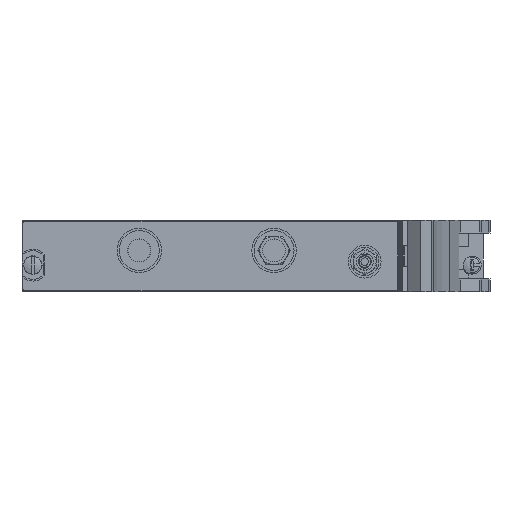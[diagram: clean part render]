
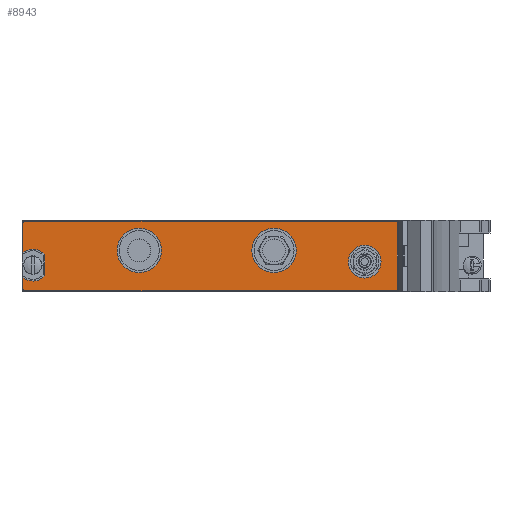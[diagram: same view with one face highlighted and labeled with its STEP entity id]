
A CAD part, left-side view. The second image highlights one B-rep face of the part: STEP entity #8943.
In plain terms, the highlighted planar face has unit normal (-1, 0, 0).
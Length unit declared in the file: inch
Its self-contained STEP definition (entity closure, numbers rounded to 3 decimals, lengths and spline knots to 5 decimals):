
#2854=CARTESIAN_POINT('',(-0.215,0.53231,0.665));
#2855=DIRECTION('',(-1.,0.,0.));
#2856=DIRECTION('',(0.,0.,1.));
#2857=AXIS2_PLACEMENT_3D('',#2854,#2855,#2856);
#2859=DIRECTION('',(0.,1.,0.));
#2860=VECTOR('',#2859,4.07);
#2861=CARTESIAN_POINT('',(-0.215,-3.53769,0.685));
#2862=LINE('',#2861,#2860);
#2863=CARTESIAN_POINT('',(-0.215,-3.53769,0.665));
#2864=DIRECTION('',(-1.,0.,0.));
#2865=DIRECTION('',(0.,-1.,0.));
#2866=AXIS2_PLACEMENT_3D('',#2863,#2864,#2865);
#2868=DIRECTION('',(0.,0.,1.));
#2869=VECTOR('',#2868,0.728);
#2870=CARTESIAN_POINT('',(-0.215,-3.55769,-0.063));
#2871=LINE('',#2870,#2869);
#2872=CARTESIAN_POINT('',(-0.215,-3.53769,-0.063));
#2873=DIRECTION('',(-1.,0.,0.));
#2874=DIRECTION('',(0.,0.,-1.));
#2875=AXIS2_PLACEMENT_3D('',#2872,#2873,#2874);
#2877=DIRECTION('',(0.,-1.,0.));
#2878=VECTOR('',#2877,4.07);
#2879=CARTESIAN_POINT('',(-0.215,0.53231,-0.083));
#2880=LINE('',#2879,#2878);
#2881=CARTESIAN_POINT('',(-0.215,0.53231,-0.063));
#2882=DIRECTION('',(-1.,0.,0.));
#2883=DIRECTION('',(0.,1.,0.));
#2884=AXIS2_PLACEMENT_3D('',#2881,#2882,#2883);
#2886=DIRECTION('',(0.,0.,-1.));
#2887=VECTOR('',#2886,0.1263);
#2888=CARTESIAN_POINT('',(-0.215,0.55231,0.0633));
#2889=LINE('',#2888,#2887);
#2890=CARTESIAN_POINT('',(-0.215,0.44431,0.201));
#2891=DIRECTION('',(1.,0.,0.));
#2892=DIRECTION('',(0.,-0.76,-0.65));
#2893=AXIS2_PLACEMENT_3D('',#2890,#2891,#2892);
#2895=DIRECTION('',(0.,0.,-1.));
#2896=VECTOR('',#2895,0.22747);
#2897=CARTESIAN_POINT('',(-0.215,0.31131,0.31474));
#2898=LINE('',#2897,#2896);
#2899=CARTESIAN_POINT('',(-0.215,0.44431,0.201));
#2900=DIRECTION('',(1.,0.,0.));
#2901=DIRECTION('',(0.,0.617,0.787));
#2902=AXIS2_PLACEMENT_3D('',#2899,#2900,#2901);
#2904=DIRECTION('',(0.,0.,-1.));
#2905=VECTOR('',#2904,0.3263);
#2906=CARTESIAN_POINT('',(-0.215,0.55231,0.665));
#2907=LINE('',#2906,#2905);
#2908=CARTESIAN_POINT('',(-0.215,-0.7245,0.362));
#2909=DIRECTION('',(1.,0.,0.));
#2910=DIRECTION('',(0.,0.,-1.));
#2911=AXIS2_PLACEMENT_3D('',#2908,#2909,#2910);
#2913=CARTESIAN_POINT('',(-0.215,-0.7245,0.362));
#2914=DIRECTION('',(1.,0.,0.));
#2915=DIRECTION('',(0.,0.,1.));
#2916=AXIS2_PLACEMENT_3D('',#2913,#2914,#2915);
#2918=CARTESIAN_POINT('',(-0.215,-2.2045,0.362));
#2919=DIRECTION('',(1.,0.,0.));
#2920=DIRECTION('',(0.,0.,-1.));
#2921=AXIS2_PLACEMENT_3D('',#2918,#2919,#2920);
#2923=CARTESIAN_POINT('',(-0.215,-2.2045,0.362));
#2924=DIRECTION('',(1.,0.,0.));
#2925=DIRECTION('',(0.,0.,1.));
#2926=AXIS2_PLACEMENT_3D('',#2923,#2924,#2925);
#2928=CARTESIAN_POINT('',(-0.215,-3.2,0.239));
#2929=DIRECTION('',(1.,0.,0.));
#2930=DIRECTION('',(0.,0.,-1.));
#2931=AXIS2_PLACEMENT_3D('',#2928,#2929,#2930);
#2933=CARTESIAN_POINT('',(-0.215,-3.2,0.239));
#2934=DIRECTION('',(1.,0.,0.));
#2935=DIRECTION('',(0.,0.,1.));
#2936=AXIS2_PLACEMENT_3D('',#2933,#2934,#2935);
#4760=CARTESIAN_POINT('',(-0.215,0.53231,0.685));
#4761=CARTESIAN_POINT('',(-0.215,0.55231,0.665));
#4762=VERTEX_POINT('',#4760);
#4763=VERTEX_POINT('',#4761);
#4764=CARTESIAN_POINT('',(-0.215,0.55231,0.3387));
#4765=VERTEX_POINT('',#4764);
#4766=CARTESIAN_POINT('',(-0.215,0.31131,0.31474));
#4767=VERTEX_POINT('',#4766);
#4768=CARTESIAN_POINT('',(-0.215,0.31131,0.08726));
#4769=VERTEX_POINT('',#4768);
#4770=CARTESIAN_POINT('',(-0.215,0.55231,0.0633));
#4771=VERTEX_POINT('',#4770);
#4772=CARTESIAN_POINT('',(-0.215,0.55231,-0.063));
#4773=VERTEX_POINT('',#4772);
#4774=CARTESIAN_POINT('',(-0.215,0.53231,-0.083));
#4775=VERTEX_POINT('',#4774);
#4776=CARTESIAN_POINT('',(-0.215,-3.53769,-0.083));
#4777=VERTEX_POINT('',#4776);
#4778=CARTESIAN_POINT('',(-0.215,-3.55769,-0.063));
#4779=VERTEX_POINT('',#4778);
#4780=CARTESIAN_POINT('',(-0.215,-3.55769,0.665));
#4781=VERTEX_POINT('',#4780);
#4782=CARTESIAN_POINT('',(-0.215,-3.53769,0.685));
#4783=VERTEX_POINT('',#4782);
#4784=CARTESIAN_POINT('',(-0.215,-0.7245,0.118));
#4785=CARTESIAN_POINT('',(-0.215,-0.7245,0.606));
#4786=VERTEX_POINT('',#4784);
#4787=VERTEX_POINT('',#4785);
#4788=CARTESIAN_POINT('',(-0.215,-3.2,0.059));
#4789=CARTESIAN_POINT('',(-0.215,-3.2,0.419));
#4790=VERTEX_POINT('',#4788);
#4791=VERTEX_POINT('',#4789);
#4792=CARTESIAN_POINT('',(-0.215,-2.2045,0.118));
#4793=CARTESIAN_POINT('',(-0.215,-2.2045,0.606));
#4794=VERTEX_POINT('',#4792);
#4795=VERTEX_POINT('',#4793);
#8896=CARTESIAN_POINT('',(-0.215,0.44431,0.201));
#8897=DIRECTION('',(-1.,0.,0.));
#8898=DIRECTION('',(0.,0.,1.));
#8899=AXIS2_PLACEMENT_3D('',#8896,#8897,#8898);
#8900=PLANE('',#8899);
#8902=ORIENTED_EDGE('',*,*,#8901,.F.);
#8904=ORIENTED_EDGE('',*,*,#8903,.F.);
#8906=ORIENTED_EDGE('',*,*,#8905,.F.);
#8908=ORIENTED_EDGE('',*,*,#8907,.F.);
#8910=ORIENTED_EDGE('',*,*,#8909,.F.);
#8912=ORIENTED_EDGE('',*,*,#8911,.F.);
#8914=ORIENTED_EDGE('',*,*,#8913,.F.);
#8916=ORIENTED_EDGE('',*,*,#8915,.F.);
#8918=ORIENTED_EDGE('',*,*,#8917,.F.);
#8920=ORIENTED_EDGE('',*,*,#8919,.F.);
#8922=ORIENTED_EDGE('',*,*,#8921,.F.);
#8924=ORIENTED_EDGE('',*,*,#8923,.F.);
#8925=EDGE_LOOP('',(#8902,#8904,#8906,#8908,#8910,#8912,#8914,#8916,#8918,#8920,
#8922,#8924));
#8926=FACE_OUTER_BOUND('',#8925,.F.);
#8927=ORIENTED_EDGE('',*,*,#8876,.F.);
#8928=ORIENTED_EDGE('',*,*,#8890,.F.);
#8929=EDGE_LOOP('',(#8927,#8928));
#8930=FACE_BOUND('',#8929,.F.);
#8932=ORIENTED_EDGE('',*,*,#8931,.F.);
#8934=ORIENTED_EDGE('',*,*,#8933,.F.);
#8935=EDGE_LOOP('',(#8932,#8934));
#8936=FACE_BOUND('',#8935,.F.);
#8938=ORIENTED_EDGE('',*,*,#8937,.F.);
#8940=ORIENTED_EDGE('',*,*,#8939,.F.);
#8941=EDGE_LOOP('',(#8938,#8940));
#8942=FACE_BOUND('',#8941,.F.);
#8943=ADVANCED_FACE('',(#8926,#8930,#8936,#8942),#8900,.T.);
#2858=CIRCLE('',#2857,0.02);
#2867=CIRCLE('',#2866,0.02);
#2876=CIRCLE('',#2875,0.02);
#2885=CIRCLE('',#2884,0.02);
#2894=CIRCLE('',#2893,0.175);
#2903=CIRCLE('',#2902,0.175);
#2912=CIRCLE('',#2911,0.244);
#2917=CIRCLE('',#2916,0.244);
#2922=CIRCLE('',#2921,0.244);
#2927=CIRCLE('',#2926,0.244);
#2932=CIRCLE('',#2931,0.18);
#2937=CIRCLE('',#2936,0.18);
#8876=EDGE_CURVE('',#4786,#4787,#2912,.T.);
#8890=EDGE_CURVE('',#4787,#4786,#2917,.T.);
#8901=EDGE_CURVE('',#4762,#4763,#2858,.T.);
#8903=EDGE_CURVE('',#4783,#4762,#2862,.T.);
#8905=EDGE_CURVE('',#4781,#4783,#2867,.T.);
#8907=EDGE_CURVE('',#4779,#4781,#2871,.T.);
#8909=EDGE_CURVE('',#4777,#4779,#2876,.T.);
#8911=EDGE_CURVE('',#4775,#4777,#2880,.T.);
#8913=EDGE_CURVE('',#4773,#4775,#2885,.T.);
#8915=EDGE_CURVE('',#4771,#4773,#2889,.T.);
#8917=EDGE_CURVE('',#4769,#4771,#2894,.T.);
#8919=EDGE_CURVE('',#4767,#4769,#2898,.T.);
#8921=EDGE_CURVE('',#4765,#4767,#2903,.T.);
#8923=EDGE_CURVE('',#4763,#4765,#2907,.T.);
#8931=EDGE_CURVE('',#4794,#4795,#2922,.T.);
#8933=EDGE_CURVE('',#4795,#4794,#2927,.T.);
#8937=EDGE_CURVE('',#4790,#4791,#2932,.T.);
#8939=EDGE_CURVE('',#4791,#4790,#2937,.T.);
